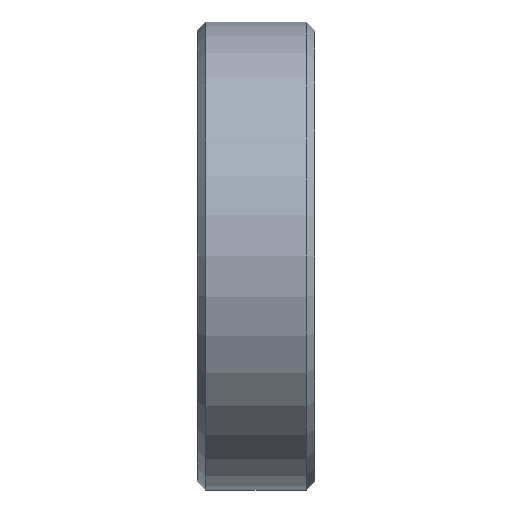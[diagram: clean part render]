
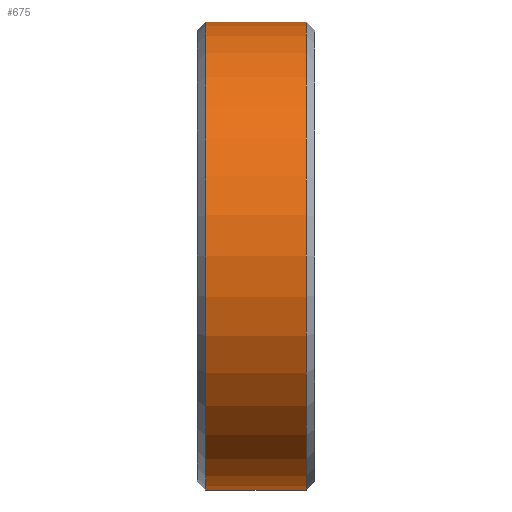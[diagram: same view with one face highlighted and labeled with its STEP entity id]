
A CAD part, left-side view. The second image highlights one B-rep face of the part: STEP entity #675.
In plain terms, the highlighted cylindrical face has radius 14 mm (diameter 28 mm), a partial arc.
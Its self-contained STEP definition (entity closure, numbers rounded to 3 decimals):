
#36 = CARTESIAN_POINT ( 'NONE',  ( 0., 3.01, 14. ) ) ;
#675 = ADVANCED_FACE ( 'NONE', ( #8819 ), #978, .T. ) ;
#845 = EDGE_CURVE ( 'NONE', #9149, #5903, #1818, .T. ) ;
#978 = CYLINDRICAL_SURFACE ( 'NONE', #8806, 14. ) ;
#1370 = AXIS2_PLACEMENT_3D ( 'NONE', #2615, #4829, #7702 ) ;
#1512 = ORIENTED_EDGE ( 'NONE', *, *, #3757, .T. ) ;
#1818 = CIRCLE ( 'NONE', #8370, 14. ) ;
#1883 = CARTESIAN_POINT ( 'NONE',  ( 0., 0., -14. ) ) ;
#2357 = DIRECTION ( 'NONE',  ( 0., -1., 0. ) ) ;
#2359 = ORIENTED_EDGE ( 'NONE', *, *, #7878, .F. ) ;
#2615 = CARTESIAN_POINT ( 'NONE',  ( 0., 3.01, 0. ) ) ;
#3042 = DIRECTION ( 'NONE',  ( 0., 0., -1. ) ) ;
#3112 = CARTESIAN_POINT ( 'NONE',  ( 0., -3.01, 0. ) ) ;
#3338 = DIRECTION ( 'NONE',  ( 0., -1., 0. ) ) ;
#3575 = VERTEX_POINT ( 'NONE', #36 ) ;
#3757 = EDGE_CURVE ( 'NONE', #8461, #9149, #7576, .T. ) ;
#4666 = CARTESIAN_POINT ( 'NONE',  ( 0., 0., 0. ) ) ;
#4785 = CIRCLE ( 'NONE', #1370, 14. ) ;
#4810 = LINE ( 'NONE', #6229, #8991 ) ;
#4829 = DIRECTION ( 'NONE',  ( 0., -1., 0. ) ) ;
#4884 = DIRECTION ( 'NONE',  ( 0., 0., -1. ) ) ;
#5211 = EDGE_LOOP ( 'NONE', ( #2359, #7892, #1512, #6086 ) ) ;
#5903 = VERTEX_POINT ( 'NONE', #7411 ) ;
#6086 = ORIENTED_EDGE ( 'NONE', *, *, #845, .T. ) ;
#6229 = CARTESIAN_POINT ( 'NONE',  ( 0., 0., 14. ) ) ;
#6456 = VECTOR ( 'NONE', #8961, 1000. ) ;
#6476 = DIRECTION ( 'NONE',  ( 0., 1., 0. ) ) ;
#6495 = CARTESIAN_POINT ( 'NONE',  ( 0., -3.01, -14. ) ) ;
#6560 = CARTESIAN_POINT ( 'NONE',  ( 0., 3.01, -14. ) ) ;
#7131 = EDGE_CURVE ( 'NONE', #3575, #8461, #4785, .T. ) ;
#7411 = CARTESIAN_POINT ( 'NONE',  ( 0., -3.01, 14. ) ) ;
#7576 = LINE ( 'NONE', #1883, #6456 ) ;
#7702 = DIRECTION ( 'NONE',  ( 0., 0., 1. ) ) ;
#7878 = EDGE_CURVE ( 'NONE', #3575, #5903, #4810, .T. ) ;
#7892 = ORIENTED_EDGE ( 'NONE', *, *, #7131, .T. ) ;
#8370 = AXIS2_PLACEMENT_3D ( 'NONE', #3112, #6476, #4884 ) ;
#8461 = VERTEX_POINT ( 'NONE', #6560 ) ;
#8806 = AXIS2_PLACEMENT_3D ( 'NONE', #4666, #2357, #3042 ) ;
#8819 = FACE_OUTER_BOUND ( 'NONE', #5211, .T. ) ;
#8961 = DIRECTION ( 'NONE',  ( 0., -1., 0. ) ) ;
#8991 = VECTOR ( 'NONE', #3338, 1000. ) ;
#9149 = VERTEX_POINT ( 'NONE', #6495 ) ;
